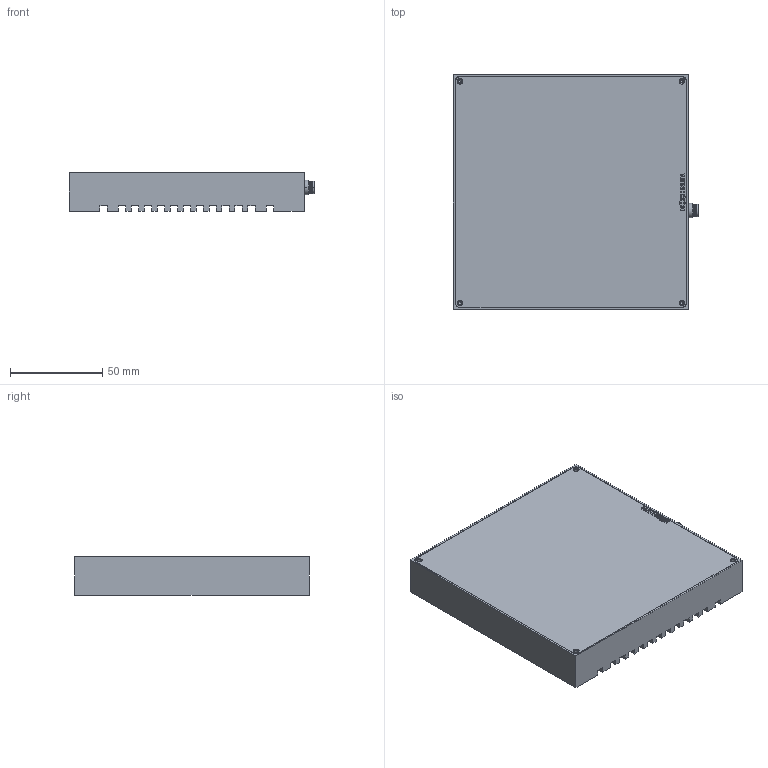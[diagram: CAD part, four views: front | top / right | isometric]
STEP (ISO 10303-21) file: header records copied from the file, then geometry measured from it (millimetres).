
FILE_DESCRIPTION(('STEP AP214'),'1');
FILE_NAME('use TL-HL-120_V2 Kundenmodell.stp','2019-03-25T13:24:10',(' '),(' '),'Spatial InterOp 3D',' ',' ');
FILE_SCHEMA(('AUTOMOTIVE_DESIGN { 1 0 10303 214 1 1 1 1 }'));
Length unit declared in the file: millimetre
Products named in the file (1): Volumenkörper
Bounding box: 132.59 x 127 x 21 mm (x, y, z)
Volume: 151492.2 mm3; surface area: 89083.3 mm2
Topology: 1 solids, 2 shells, 370 faces, 946 edges, 566 vertices
Faces by surface type: plane 164, cylinder 94, cone 72, extrusion 22, sphere 16, torus 2
Entity records: 14198 total; most frequent: CARTESIAN_POINT 2470, DIRECTION 1810, ORIENTED_EDGE 1780, EDGE_CURVE 890, VECTOR 620, LINE 598, AXIS2_PLACEMENT_3D 595, VERTEX_POINT 566
